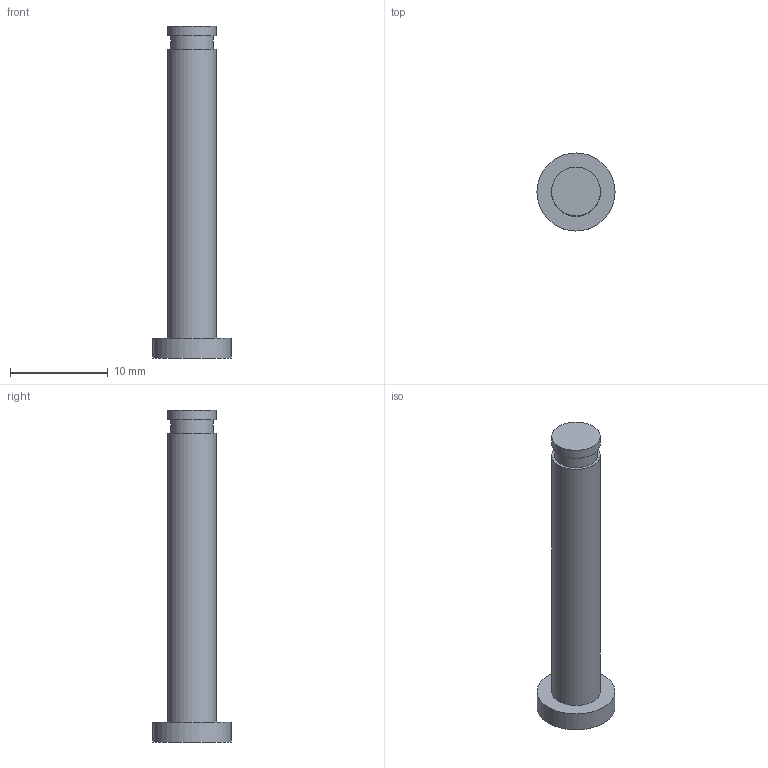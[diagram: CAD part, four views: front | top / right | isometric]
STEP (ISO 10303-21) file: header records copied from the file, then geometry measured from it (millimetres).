
FILE_DESCRIPTION(('Open CASCADE Model'),'2;1');
FILE_NAME('F07-PIN5-L34','2026-11-15T22:32:20',('Author'),( 'Open CASCADE'),'Open CASCADE STEP processor 8.0','build123d', 'Unknown');
FILE_SCHEMA(('AUTOMOTIVE_DESIGN { 1 0 10303 214 1 1 1 1 }'));
Length unit declared in the file: millimetre
Products named in the file (1): F07-PIN5-L34
Bounding box: 8 x 8 x 34 mm (x, y, z)
Volume: 722.6 mm3; surface area: 659.7 mm2
Topology: 1 solids, 1 shells, 9 faces, 12 edges, 8 vertices
Faces by surface type: plane 5, cylinder 4
Full cylindrical faces by diameter (mm): 4.4 x1, 5 x2, 8 x1
Entity records: 360 total; most frequent: DIRECTION 64, CARTESIAN_POINT 54, ORIENTED_EDGE 24, PCURVE 24, DEFINITIONAL_REPRESENTATION 24, LINE 20, VECTOR 20, AXIS2_PLACEMENT_3D 18
